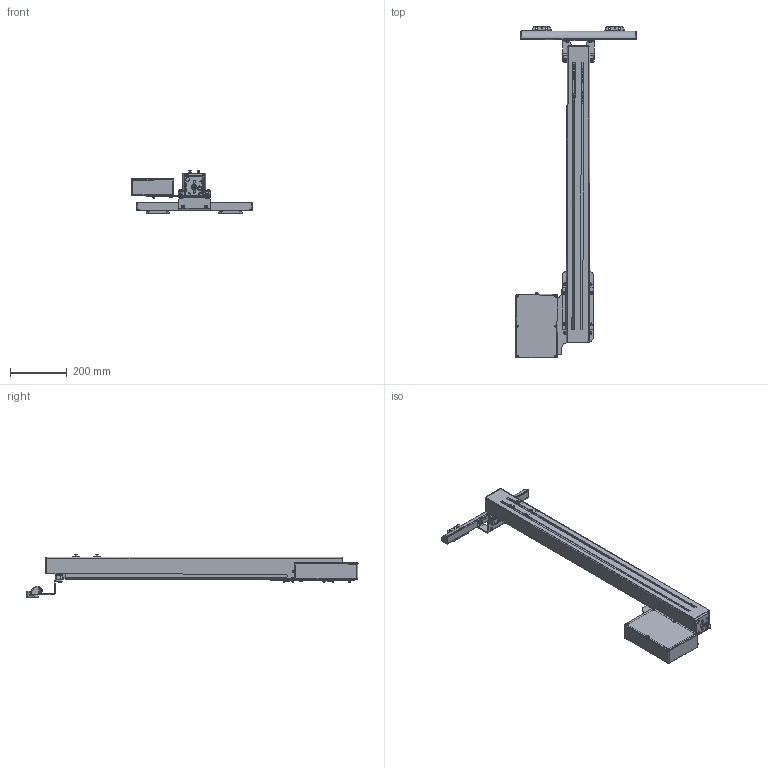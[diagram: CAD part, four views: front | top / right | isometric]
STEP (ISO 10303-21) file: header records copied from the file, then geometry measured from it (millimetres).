
FILE_DESCRIPTION(/* description */ (''),/* implementation_level */ '2;1');
FILE_NAME(/* name */ 'LA-6242-0070-04-A_EQ-ATS 800mm ASSEMBLY.stp',/* time_stamp */ '2021-03-01T11:17:01+00:00',/* author */ (''),/* organization */ (''),/* preprocessor_version */ 'ST-DEVELOPER v16.7',/* originating_system */ 'SIEMENS PLM Software NX 1942',/* authorisation */ '');
FILE_SCHEMA (('AUTOMOTIVE_DESIGN { 1 0 10303 214 3 1 1 1 }'));
Products named in the file (1): jh14437CE6A4a6uo
Bounding box: 424.56 x 1166.63 x 148.87 mm (x, y, z)
Volume: 6214851.3 mm3; surface area: 1272844.1 mm2
Topology: 125 solids, 126 shells, 3533 faces, 8749 edges, 5670 vertices
Faces by surface type: plane 1791, cylinder 1004, cone 553, bspline 96, torus 74, sphere 15
Full cylindrical faces by diameter (mm): 2.53 x8, 3.8 x3, 3.9 x6, 4.134 x29, 4.3 x24, 4.826 x4, 4.917 x4, 5 x38, 5.2 x16, 5.3 x10, 5.5 x12, 5.7 x4, 5.795 x4, 6 x10, 6.5 x10, 6.8 x12, 6.9 x8, 7 x4, 8 x1, 8.5 x18, 8.566 x8, 9 x18, 9.5 x18, 9.728 x12, 10 x18, 10.5 x8, 11 x4, 12 x2, 12.7 x2, 13.4 x6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
Entity records: 159815 total; most frequent: CARTESIAN_POINT 70838, DIRECTION 16812, ORIENTED_EDGE 15576, EDGE_CURVE 7788, AXIS2_PLACEMENT_3D 6208, VERTEX_POINT 5492, EDGE_LOOP 4721, LINE 4396
